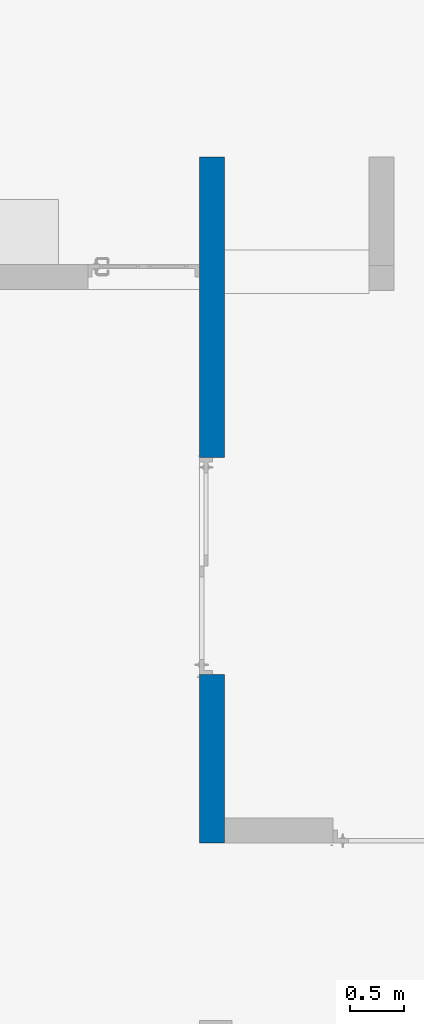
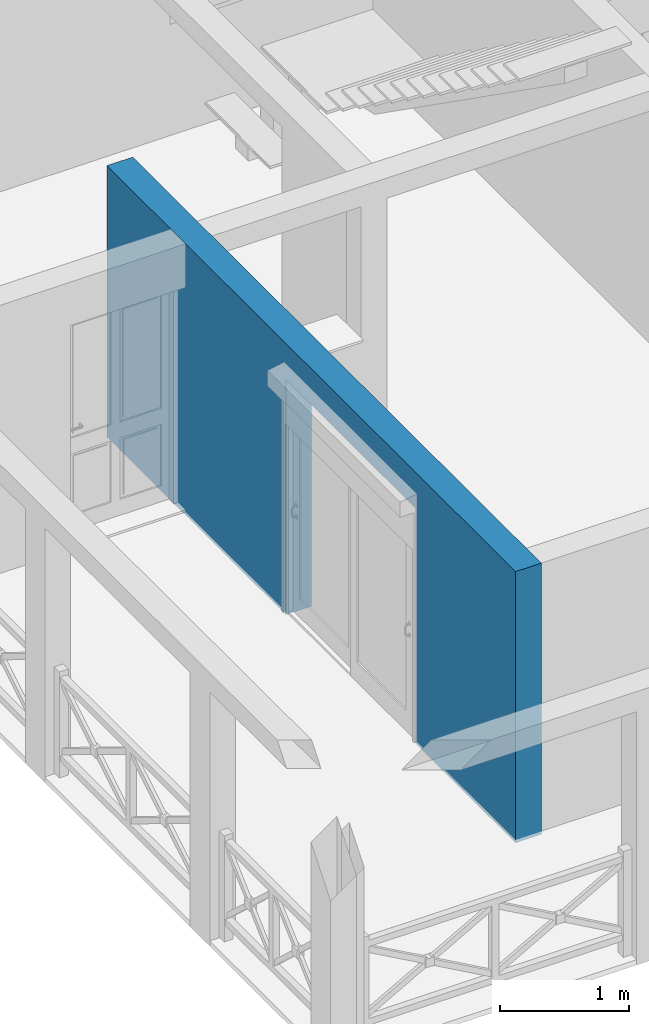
# One storey, part 4 of 17: 1 wall, 1 opening.
"""IFC2X3 building model written with IfcOpenShell, lengths in metres."""

import ifcopenshell
import ifcopenshell.guid

model = None  # the IFC model being written
_history = None  # IfcOwnerHistory: only IFC2X3 demands one
_inside = {}  # id of a spatial element -> (the spatial element, [elements in it])
_under = {}  # id of a project, library or spatial element -> (it, [spatial elements below it])
_declared = {}  # id of a project -> (the project, [libraries it declares])
_typed = {}  # id of a type object -> (the type object, [elements of that type])
_made_of = {}  # id of a material, layer set ... -> (it, [elements and type objects made of it])


def new_model(schema):
    """Start an empty IFC model of exactly this schema.

    Asked for "IFC4X3", IfcOpenShell would pick the latest addendum, in which some entities
    have other attributes; the version numbers below select the first issue.
    IFC2X3 requires an IfcOwnerHistory on every rooted entity: one is made here for all.
    """
    global model, _history
    if schema == "IFC4X3":
        model = ifcopenshell.file(schema_version=(4, 3, 0, 0))
    else:
        model = ifcopenshell.file(schema=schema)
    _inside.clear()
    _under.clear()
    _declared.clear()
    _typed.clear()
    _made_of.clear()
    _history = None
    if model.schema == "IFC2X3":
        org = make("IfcOrganization", Name="unknown")
        user = make(
            "IfcPersonAndOrganization",
            ThePerson=make("IfcPerson", FamilyName="unknown"),
            TheOrganization=org,
        )
        app = make(
            "IfcApplication",
            ApplicationDeveloper=org,
            Version="unknown",
            ApplicationFullName="unknown",
            ApplicationIdentifier="unknown",
        )
        _history = make(
            "IfcOwnerHistory",
            OwningUser=user,
            OwningApplication=app,
            ChangeAction="ADDED",
            CreationDate=0,
        )
    return model


def make(cls, **values):
    """One entity of the class cls with the attributes given. An attribute that is None is left unset."""
    return model.create_entity(
        cls, **{name: value for name, value in values.items() if value is not None}
    )


def entity(cls, *values):
    """Any entity or typed value of the class cls, its attributes in the order of the schema. None: left unset."""
    e = model.create_entity(cls)
    for i, value in enumerate(values):
        if value is not None:
            e[i] = value
    return e


def rooted(cls, **values):
    """An entity with a GlobalId (a new one), such as an element, a storey or a relation."""
    return make(cls, GlobalId=ifcopenshell.guid.new(), OwnerHistory=_history, **values)


def si_unit(unit_type, name, prefix=None):
    """IfcSIUnit, for example si_unit("LENGTHUNIT", "METRE", prefix="MILLI")."""
    return make("IfcSIUnit", UnitType=unit_type, Prefix=prefix, Name=name)


def converted_unit(unit_type, name, factor, base, dimensions=None, offset=None):
    """IfcConversionBasedUnit, such as the inch: factor (a typed value) times the base unit."""
    return make(
        "IfcConversionBasedUnit"
        if offset is None
        else "IfcConversionBasedUnitWithOffset",
        ConversionOffset=offset,
        Dimensions=None
        if dimensions is None
        else entity("IfcDimensionalExponents", *dimensions),
        UnitType=unit_type,
        Name=name,
        ConversionFactor=make(
            "IfcMeasureWithUnit", ValueComponent=factor, UnitComponent=base
        ),
    )


def derived_unit(unit_type, elements):
    """IfcDerivedUnit: a product of units, each with its exponent."""
    return make(
        "IfcDerivedUnit",
        Elements=[
            make("IfcDerivedUnitElement", Unit=unit, Exponent=power)
            for unit, power in elements
        ],
        UnitType=unit_type,
    )


def money_unit(currency):
    """IfcMonetaryUnit."""
    return make("IfcMonetaryUnit", Currency=currency)


def assignment(units):
    """IfcUnitAssignment: the units of a project."""
    return None if units is None else make("IfcUnitAssignment", Units=units)


def point(xyz):
    """IfcCartesianPoint."""
    return None if xyz is None else make("IfcCartesianPoint", Coordinates=xyz)


def direction(xyz):
    """IfcDirection."""
    return None if xyz is None else make("IfcDirection", DirectionRatios=xyz)


def frame(location, z_axis=None, x_axis=None):
    """IfcAxis2Placement3D, a coordinate frame: its origin and axes. An axis left out is left unset."""
    return make(
        "IfcAxis2Placement3D",
        Location=point(location),
        Axis=direction(z_axis),
        RefDirection=direction(x_axis),
    )


def frame_2d(location, x_axis=None):
    """IfcAxis2Placement2D, a coordinate frame in the plane: its origin and x axis."""
    return make(
        "IfcAxis2Placement2D", Location=point(location), RefDirection=direction(x_axis)
    )


def origin_with_axes():
    """The frame at (0, 0, 0) with the z axis (0, 0, 1) and the x axis (1, 0, 0) written out."""
    return frame((0.0, 0.0, 0.0), z_axis=(0.0, 0.0, 1.0), x_axis=(1.0, 0.0, 0.0))


def origin_2d_with_axis():
    """The frame at (0, 0) in the plane with the x axis (1, 0) written out."""
    return frame_2d((0.0, 0.0), x_axis=(1.0, 0.0))


def place(relative_to, where):
    """IfcLocalPlacement: puts the frame where relative to a parent placement (None: the world)."""
    return make(
        "IfcLocalPlacement", PlacementRelTo=relative_to, RelativePlacement=where
    )


def context(
    kind, dimensions, precision=None, world=None, true_north=None, identifier=None
):
    """IfcGeometricRepresentationContext, for example the 3D "Model" context."""
    return make(
        "IfcGeometricRepresentationContext",
        ContextIdentifier=identifier,
        ContextType=kind,
        CoordinateSpaceDimension=dimensions,
        Precision=precision,
        WorldCoordinateSystem=world,
        TrueNorth=true_north,
    )


def subcontext(parent, identifier, kind, view, scale=None):
    """IfcGeometricRepresentationSubContext, for example "Body" below "Model"."""
    return make(
        "IfcGeometricRepresentationSubContext",
        ContextIdentifier=identifier,
        ContextType=kind,
        ParentContext=parent,
        TargetScale=scale,
        TargetView=view,
    )


def project(units=None, contexts=None):
    """IfcProject with its units and contexts."""
    return rooted(
        "IfcProject",
        Name="project",
        RepresentationContexts=contexts,
        UnitsInContext=assignment(units),
    )


def spatial(cls, under=None, at=None, **own):
    """A site, building, storey or space (cls), placed at a placement, below another one or the project."""
    s = rooted(cls, ObjectPlacement=at, **own)
    if under is not None:
        _under.setdefault(under.id(), (under, []))[1].append(s)
    return s


def polyline(points):
    """IfcPolyline through the points."""
    return make("IfcPolyline", Points=[point(p) for p in points])


def profile(cls, at=None, kind="AREA", **sizes):
    """A parametric profile (cls). Its sizes go by their IFC names, for example OverallWidth=200.0."""
    return make(cls, ProfileType=kind, Position=at, **sizes)


def rectangle(**sizes):
    """IfcRectangleProfileDef."""
    return profile("IfcRectangleProfileDef", **sizes)


def outline(outer, holes=None, kind="AREA"):
    """IfcArbitraryClosedProfileDef: a profile drawn as a closed curve; with holes, ...WithVoids."""
    if holes is None:
        return make("IfcArbitraryClosedProfileDef", ProfileType=kind, OuterCurve=outer)
    return make(
        "IfcArbitraryProfileDefWithVoids",
        ProfileType=kind,
        OuterCurve=outer,
        InnerCurves=holes,
    )


def extrude(swept, where, along, depth):
    """IfcExtrudedAreaSolid: the profile swept, set in the frame where, extruded along a direction by depth."""
    return make(
        "IfcExtrudedAreaSolid",
        SweptArea=swept,
        Position=where,
        ExtrudedDirection=direction(along),
        Depth=depth,
    )


def boolean(op, a, b):
    """IfcBooleanResult of two solids."""
    return make("IfcBooleanResult", Operator=op, FirstOperand=a, SecondOperand=b)


def faces_of(points, faces, orient=None, outer=None):
    """IfcFace entities. A face is a list of loops; a loop is a list of indices into points, from 0.

    orient and outer hold one flag for each loop. By default every Orientation is true, the
    first loop of a face is its IfcFaceOuterBound and the others are IfcFaceBound.
    """
    made = []
    for i, loops in enumerate(faces):
        bounds = []
        for j, loop in enumerate(loops):
            is_outer = j == 0 if outer is None else outer[i][j]
            bounds.append(
                make(
                    "IfcFaceOuterBound" if is_outer else "IfcFaceBound",
                    Bound=make("IfcPolyLoop", Polygon=[points[k] for k in loop]),
                    Orientation=True if orient is None else orient[i][j],
                )
            )
        made.append(make("IfcFace", Bounds=bounds))
    return made


def faceted_brep(points, faces, orient=None, outer=None, voids=None):
    """IfcFacetedBrep: a solid bounded by flat faces; with voids (closed shells), ...WithVoids."""
    shared = [point(p) for p in points]
    hull = make("IfcClosedShell", CfsFaces=faces_of(shared, faces, orient, outer))
    if voids is None:
        return make("IfcFacetedBrep", Outer=hull)
    return make(
        "IfcFacetedBrepWithVoids",
        Outer=hull,
        Voids=[
            make(cls, CfsFaces=faces_of(shared, fs, o, b)) for cls, fs, o, b in voids
        ],
    )


def shape(context_of_items, identifier, shape_type, items):
    """IfcShapeRepresentation: the items that make up one representation, for example the "Body"."""
    return make(
        "IfcShapeRepresentation",
        ContextOfItems=context_of_items,
        RepresentationIdentifier=identifier,
        RepresentationType=shape_type,
        Items=items,
    )


def material(Name=None, Category=None):
    """IfcMaterial."""
    return make("IfcMaterial", Name=Name, Category=Category)


def made_of(thing, what):
    """Note that an element or type object is made of a material, layer set ...; save() writes the relation."""
    if what is not None:
        _made_of.setdefault(what.id(), (what, []))[1].append(thing)
    return thing


def type_object(cls, material=None, **own):
    """A type object (cls), such as IfcWallType, which elements share."""
    return made_of(rooted(cls, **own), material)


def element(
    cls,
    number,
    at=None,
    inside=None,
    cuts=None,
    type_object=None,
    material=None,
    context=None,
    identifier="Body",
    shape_type=None,
    held_by="IfcProductDefinitionShape",
    body=None,
    shapes=None,
    **own,
):
    """One element of the class cls, such as IfcWall. Its Tag is "e" and its number.

    at: its placement. inside: the storey or other place that contains it. cuts: it is an
    opening in that element (IfcRelVoidsElement). A single representation is given by context,
    identifier, shape_type and body (its items); several are given by shapes. held_by: the class
    of the entity that holds the representations. save() writes the other relations.
    """
    e = rooted(cls, Tag="e%d" % number, ObjectPlacement=at, **own)
    if body is not None:
        shapes = [shape(context, identifier, shape_type, body)]
    if shapes is not None:
        e.Representation = make(held_by, Representations=shapes)
    if inside is not None:
        _inside.setdefault(inside.id(), (inside, []))[1].append(e)
    if cuts is not None:
        rooted(
            "IfcRelVoidsElement", RelatingBuildingElement=cuts, RelatedOpeningElement=e
        )
    if type_object is not None:
        _typed.setdefault(type_object.id(), (type_object, []))[1].append(e)
    return made_of(e, material)


def aggregate(whole, parts):
    """IfcRelAggregates: a whole, such as a stair, and the parts it consists of."""
    return rooted("IfcRelAggregates", RelatingObject=whole, RelatedObjects=parts)


def save(model, path):
    """Write the relations noted so far, then the file.

    IfcRelAggregates (storeys below a building ...), IfcRelContainedInSpatialStructure (elements
    in a storey), IfcRelDefinesByType, IfcRelAssociatesMaterial and IfcRelDeclares: one each for
    every whole, place, type object, material and project.
    """
    for whole, parts in _under.values():
        aggregate(whole, parts)
    for where, things in _inside.values():
        rooted(
            "IfcRelContainedInSpatialStructure",
            RelatedElements=things,
            RelatingStructure=where,
        )
    for kind, things in _typed.values():
        rooted("IfcRelDefinesByType", RelatedObjects=things, RelatingType=kind)
    for what, things in _made_of.values():
        rooted("IfcRelAssociatesMaterial", RelatedObjects=things, RelatingMaterial=what)
    for by, libraries in _declared.values():
        rooted("IfcRelDeclares", RelatingContext=by, RelatedDefinitions=libraries)
    model.write(path)


model = new_model("IFC2X3")

# Units and contexts
model_context = context("Model", 3, precision=1e-05, world=origin_with_axes(), true_north=direction((0.0, 1.0)))
body_context = subcontext(model_context, "Body", "Model", "MODEL_VIEW")
ifc_project = project(units=[si_unit("LENGTHUNIT", "METRE"), si_unit("AREAUNIT", "SQUARE_METRE"), si_unit("VOLUMEUNIT", "CUBIC_METRE"), converted_unit("PLANEANGLEUNIT", "DEGREE", entity("IfcPlaneAngleMeasure", 0.0174532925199), si_unit("PLANEANGLEUNIT", "RADIAN"), dimensions=[0, 0, 0, 0, 0, 0, 0]), si_unit("SOLIDANGLEUNIT", "STERADIAN"), money_unit("CHF"), converted_unit("TIMEUNIT", "Year", entity("IfcTimeMeasure", 31556926.0), si_unit("TIMEUNIT", "SECOND"), dimensions=[0, 0, 1, 0, 0, 0, 0]), si_unit("MASSUNIT", "GRAM", prefix="KILO"), si_unit("THERMODYNAMICTEMPERATUREUNIT", "DEGREE_CELSIUS"), si_unit("LUMINOUSINTENSITYUNIT", "LUMEN"), si_unit("ENERGYUNIT", "JOULE", prefix="MEGA"), derived_unit("THERMALCONDUCTANCEUNIT", [(si_unit("POWERUNIT", "WATT"), 1), (si_unit("LENGTHUNIT", "METRE"), -1), (si_unit("THERMODYNAMICTEMPERATUREUNIT", "KELVIN"), -1)]), derived_unit("SPECIFICHEATCAPACITYUNIT", [(si_unit("ENERGYUNIT", "JOULE"), 1), (si_unit("MASSUNIT", "GRAM", prefix="KILO"), -1), (si_unit("THERMODYNAMICTEMPERATUREUNIT", "KELVIN"), -1)]), derived_unit("MASSDENSITYUNIT", [(si_unit("MASSUNIT", "GRAM", prefix="KILO"), 1), (si_unit("VOLUMEUNIT", "CUBIC_METRE"), -1)])], contexts=[model_context])

# Site, building, storey
site_placement = place(None, origin_with_axes())
site = spatial("IfcSite", under=ifc_project, at=site_placement, Name="Site", CompositionType="ELEMENT")
building_placement = place(site_placement, origin_with_axes())
building = spatial("IfcBuilding", under=site, at=building_placement, Name="Bâtiment", CompositionType="ELEMENT")
storey_placement = place(building_placement, frame((0.0, 0.0, 3.0), z_axis=(0.0, 0.0, 1.0), x_axis=(1.0, 0.0, 0.0)))
storey = spatial("IfcBuildingStorey", under=building, at=storey_placement, Name="RDJ", CompositionType="ELEMENT", Elevation=3.0)

# Wall, opening
ifc_material = material(Name="Hachure solide 2628782308")
wall_type = type_object("IfcWallType", Name="Hachure solide 2628782308 230", PredefinedType="NOTDEFINED")
wall_placement = place(storey_placement, frame((87.7435190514, 15.3686026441, -3.07), z_axis=(0.0, 0.0, 1.0), x_axis=(0.0, -1.0, 0.0)))
wall = element("IfcWall", 1, at=wall_placement, inside=storey, type_object=wall_type, material=ifc_material, Name="MurExt-008", context=body_context, shape_type="CSG", body=[
    boolean("DIFFERENCE", extrude(outline(polyline([(0.0, -0.23), (6.31933603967, -0.23), (6.31933603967, 0.0), (0.0, 0.0), (0.0, -0.23)])), origin_with_axes(), (0.0, 0.0, 1.0), 2.58), faceted_brep([(0.0, -0.23, 0.02), (0.0, 0.0, 0.02), (0.0, 0.0, 0.0), (0.0, -0.23, 0.0), (2.76879876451, 0.0, 0.02), (1.21826158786, -0.23, 0.02), (2.76879876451, -0.230000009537, 0.02), (4.76879885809, 0.0, 0.02), (6.31933603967, 0.0, 0.02), (6.31933603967, 0.0, 0.0), (2.76879876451, 0.0, 0.07), (4.76879885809, 0.0, 0.07), (6.31933603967, -0.23, 0.0), (6.31933603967, -0.23, 0.02), (4.76879885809, -0.230000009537, 0.02), (4.76879885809, -0.230000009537, 0.07), (2.76879876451, -0.230000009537, 0.07)], [[[0, 1, 2, 3]], [[4, 1, 0, 5, 6]], [[7, 8, 9, 2, 1, 4, 10, 11]], [[12, 3, 2, 9]], [[5, 0, 3, 12, 13, 14, 15, 16, 6]], [[10, 4, 6, 16]], [[8, 7, 14, 13]], [[8, 13, 12, 9]], [[11, 10, 16, 15]], [[7, 11, 15, 14]]])),
])
opening_placement = place(wall_placement, frame((3.76879881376, 0.0, 0.04), z_axis=(0.0, 0.0, 1.0), x_axis=(1.0, 0.0, 0.0)))
element("IfcOpeningElement", 2, at=opening_placement, cuts=wall, Name="Por-023", context=body_context, shape_type="SweptSolid", body=[
    extrude(rectangle(XDim=2.0, YDim=2.2, at=origin_2d_with_axis()), frame((0.0, 0.23, 1.1), z_axis=(0.0, 1.0, 0.0), x_axis=(1.0, 0.0, 0.0)), (0.0, 0.0, -1.0), 0.69),
])

save(model, "model.ifc")
